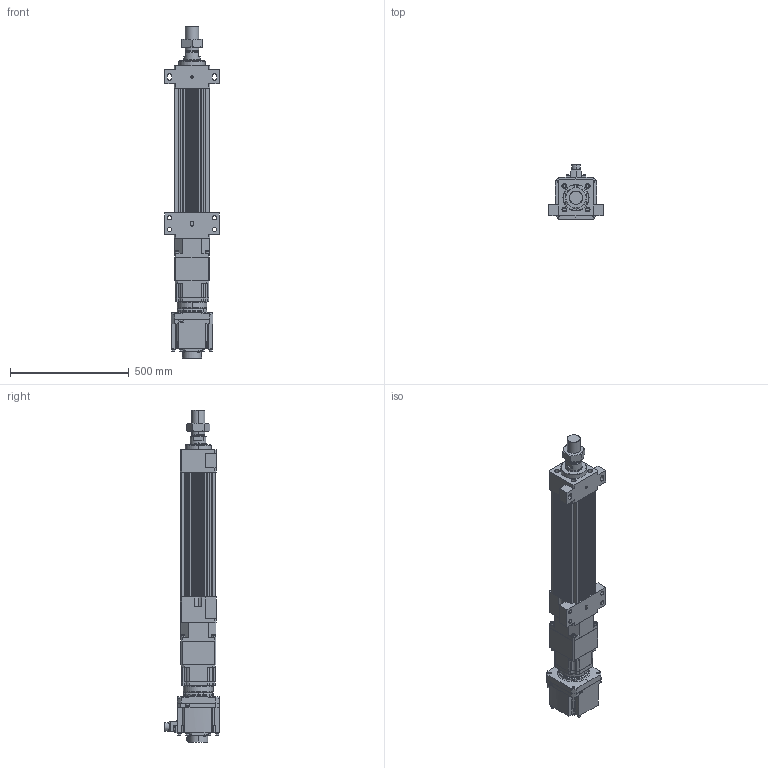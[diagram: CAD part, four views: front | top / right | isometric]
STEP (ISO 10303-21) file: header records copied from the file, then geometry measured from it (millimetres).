
FILE_DESCRIPTION (( 'STEP AP203' ), '1' );
FILE_NAME ('HES150NS(HS)-S250-W035G00-M-FFB.STEP', '2023-01-31T12:32:12', ( 'tms' ), ( '' ), 'SwSTEP 2.0', 'SolidWorks 2013', '' );
FILE_SCHEMA (( 'CONFIG_CONTROL_DESIGN' ));
Length unit declared in the file: millimetre
Products named in the file (9): HES150 ROD M ST250; HG-SR352; P0403500801; AB1421; HES150NS(HS)-S250-W035G00-M-FFB; AB142-003[HG-SR352]; P1301500001; HES150-S250-G142-FFB; M56X2.0P
Assembly tree (8 placements, depth 3):
  HES150NS(HS)-S250-W035G00-M-FFB
    HES150-S250-G142-FFB
    HES150 ROD M ST250
    M56X2.0P
    AB142-003[HG-SR352]
      AB1421
      P1301500001
      P0403500801
    HG-SR352
Bounding box: 230 x 228.85 x 1397.5 mm (x, y, z)
Volume: 16039322.2 mm3; surface area: 1707974 mm2
Topology: 5 solids, 23 shells, 1522 faces, 3951 edges, 2569 vertices
Faces by surface type: cylinder 691, plane 599, cone 150, bspline 76, torus 6
Entity records: 55583 total; most frequent: CARTESIAN_POINT 16843, DIRECTION 8091, ORIENTED_EDGE 7808, EDGE_CURVE 3926, AXIS2_PLACEMENT_3D 3042, VERTEX_POINT 2569, LINE 2007, VECTOR 2007
